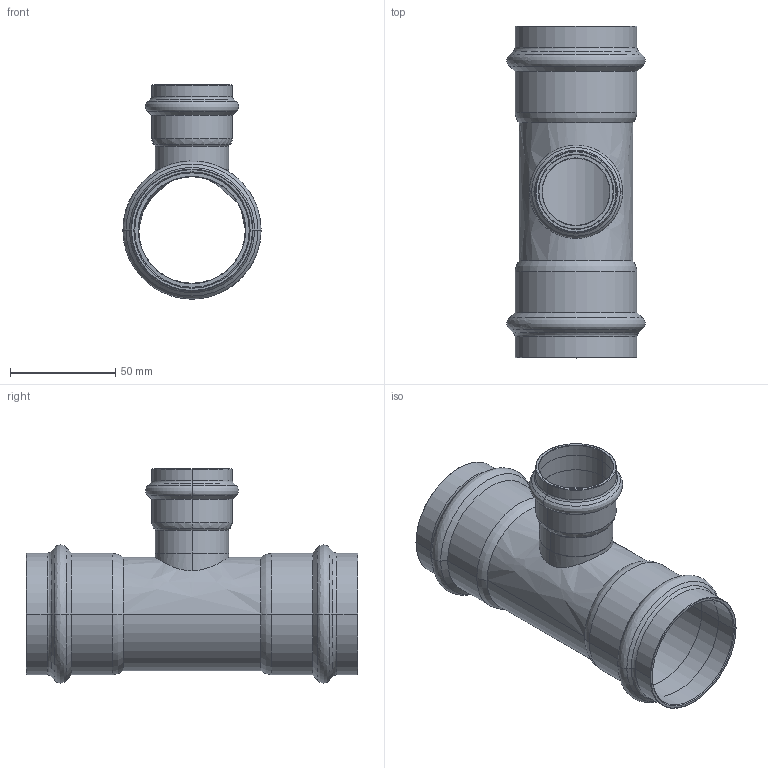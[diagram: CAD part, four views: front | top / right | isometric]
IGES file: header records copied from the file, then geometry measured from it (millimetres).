
Start section: Elysium IGES Interface
Global section: file name: C:\3d modellen sudo\C-Pr VP\SP8130RV\8130RVW543554.igs; native system: CoCreate Modeling 17.00A  17-Jun-2010; preprocessor: CoCreate IGES_3D V2.2; author: Unknown; organization: Unknown; date: 20130131.144655; units: millimetre
Bounding box: 65.68 x 157.73 x 101.82 mm (x, y, z)
Volume: 65077.4 mm3; surface area: 66584.1 mm2
Topology: 1 solids, 1 shells, 128 faces, 262 edges, 144 vertices
Faces by surface type: bspline 128
